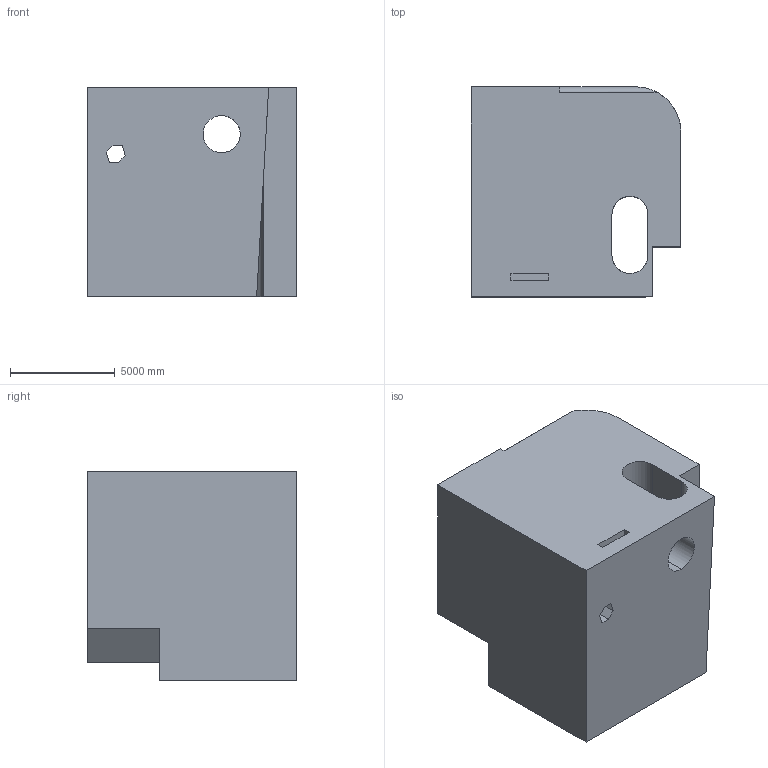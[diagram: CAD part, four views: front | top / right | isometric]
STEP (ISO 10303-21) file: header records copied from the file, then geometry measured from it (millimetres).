
FILE_DESCRIPTION (( 'STEP AP203' ), '1' );
FILE_NAME ('171.STEP', '2022-09-06T12:38:23', ( 'user' ), ( '' ), 'SwSTEP 2.0', 'SolidWorks 2021', '' );
FILE_SCHEMA (( 'CONFIG_CONTROL_DESIGN' ));
Length unit declared in the file: centimetre
Products named in the file (1): 171
Bounding box: 10000 x 10000 x 10000 mm (x, y, z)
Volume: 807186936792.8 mm3; surface area: 730955547.1 mm2
Topology: 1 solids, 1 shells, 32 faces, 93 edges, 62 vertices
Faces by surface type: plane 26, cylinder 6
Entity records: 1525 total; most frequent: CARTESIAN_POINT 585, ORIENTED_EDGE 186, DIRECTION 164, EDGE_CURVE 93, LINE 78, VECTOR 78, VERTEX_POINT 62, AXIS2_PLACEMENT_3D 43
